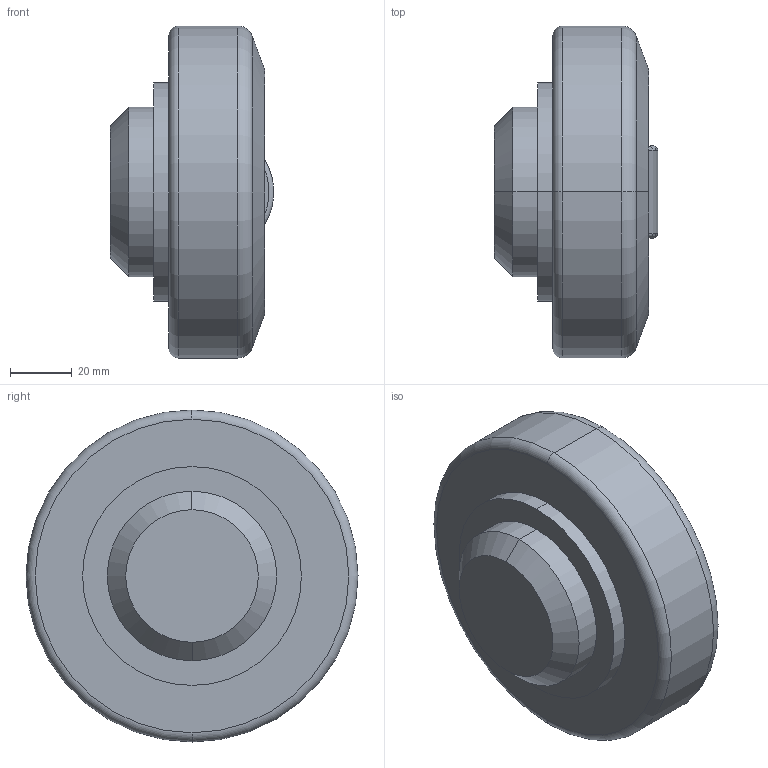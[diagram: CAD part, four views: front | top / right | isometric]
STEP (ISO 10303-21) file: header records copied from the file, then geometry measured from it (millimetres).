
FILE_DESCRIPTION (( 'STEP AP203' ), '1' );
FILE_NAME ('3D40060.STEP', '2002-11-20T10:00:55', ( 'Francesc' ), ( 'propia' ), 'SwSTEP 2.0', 'SolidWorks 2001039', '' );
FILE_SCHEMA (( 'CONFIG_CONTROL_DESIGN' ));
Length unit declared in the file: millimetre
Products named in the file (1): 2
Bounding box: 52.94 x 107.7 x 107.7 mm (x, y, z)
Volume: 321098.2 mm3; surface area: 29448.6 mm2
Topology: 1 solids, 1 shells, 23 faces, 46 edges, 28 vertices
Faces by surface type: cylinder 7, torus 6, plane 6, cone 4
Entity records: 729 total; most frequent: CARTESIAN_POINT 154, DIRECTION 118, ORIENTED_EDGE 92, AXIS2_PLACEMENT_3D 52, EDGE_CURVE 46, VERTEX_POINT 28, CIRCLE 28, EDGE_LOOP 26
